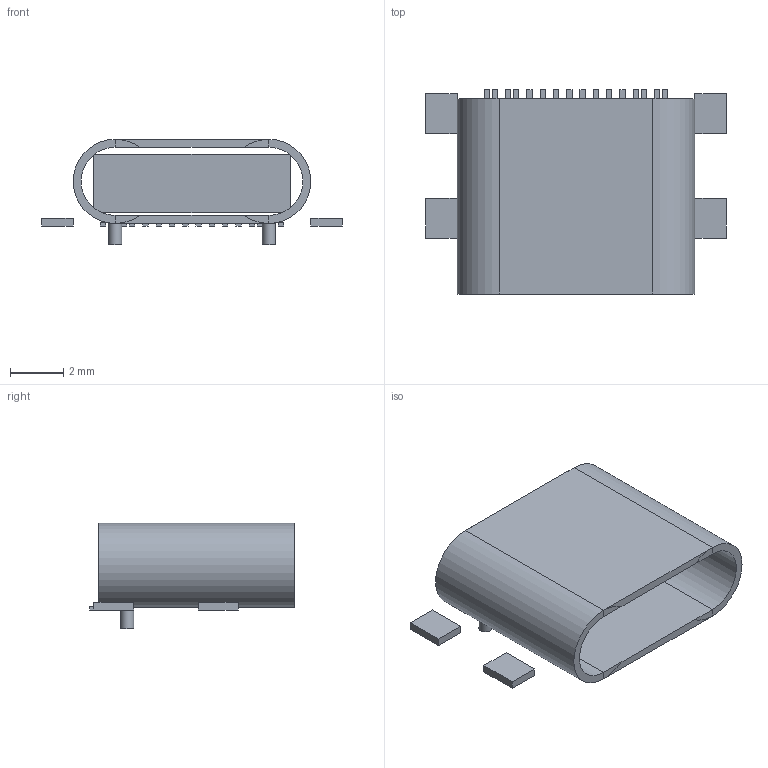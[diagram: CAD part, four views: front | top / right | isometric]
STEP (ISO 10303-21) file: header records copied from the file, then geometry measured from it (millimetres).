
FILE_DESCRIPTION(('Open CASCADE Model'),'2;1');
FILE_NAME('Open CASCADE Shape Model','2026-10-09T15:40:50',('Author'),( 'Open CASCADE'),'Open CASCADE STEP processor 7.7','Open CASCADE 7.7' ,'Unknown');
FILE_SCHEMA(('AUTOMOTIVE_DESIGN { 1 0 10303 214 1 1 1 1 }'));
Length unit declared in the file: millimetre
Products named in the file (24): USB4110 dimensioned shell envelope; SMT shell stake - simplified length; Locating peg; Contact tail1; Contact tail2; Contact tail3; Contact tail4; Contact tail5; Contact tail6; Contact tail7; Contact tail8; Contact tail9; Contact tail10; Contact tail11; Contact tail12; Contact tail13; Contact tail14; Contact tail15; Contact tail16; Simplified rear insulator - not mating geometry
Bounding box: 11.3 x 7.68 x 3.96 mm (x, y, z)
Volume: 75.9 mm3; surface area: 414.5 mm2
Topology: 24 solids, 24 shells, 156 faces, 306 edges, 196 vertices
Faces by surface type: plane 150, cylinder 6
Full cylindrical faces by diameter (mm): 0.5 x2
Entity records: 8289 total; most frequent: CARTESIAN_POINT 1299, DIRECTION 1224, LINE 842, VECTOR 842, ORIENTED_EDGE 612, PCURVE 612, DEFINITIONAL_REPRESENTATION 612, EDGE_CURVE 306
